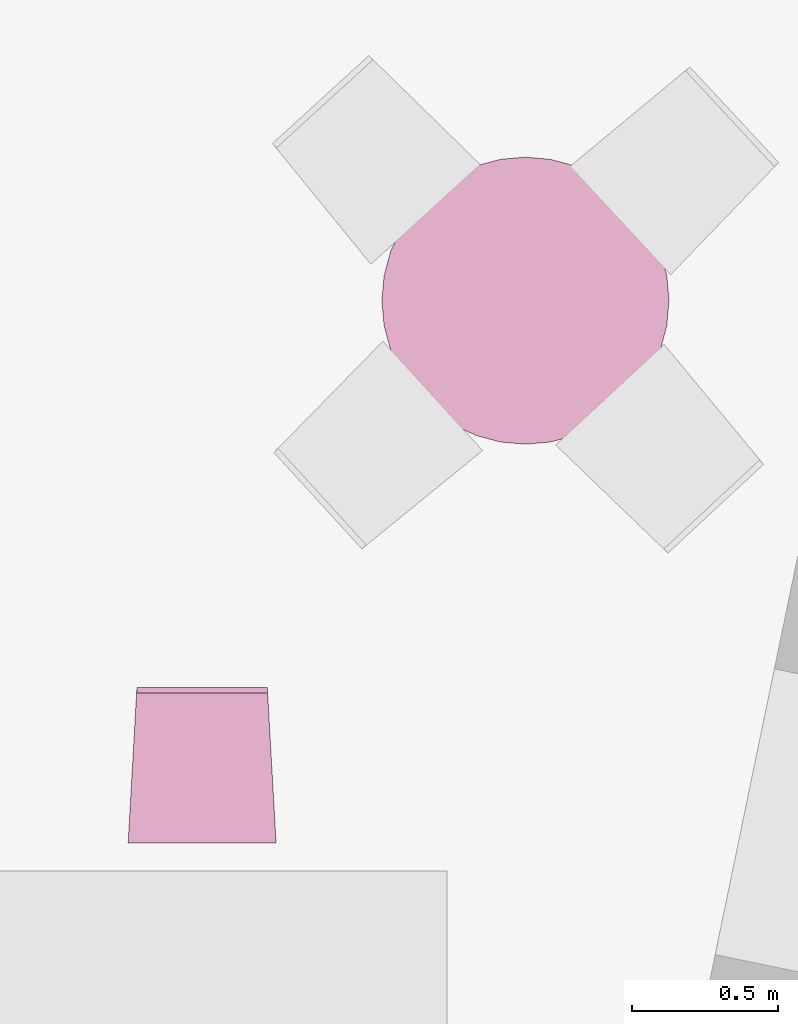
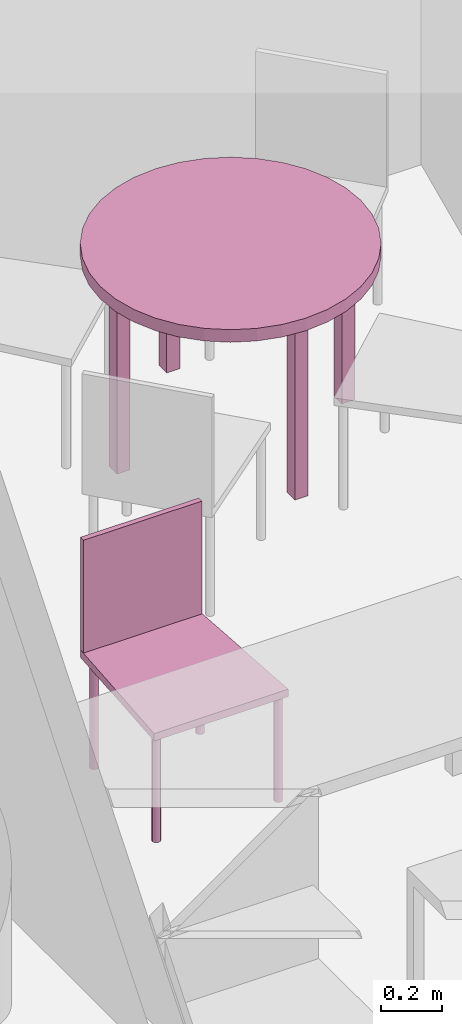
"""IFC4 building model written with IfcOpenShell, lengths in metres."""

from ifc_helpers import new_model, entity, si_unit, converted_unit, derived_unit, frame, origin, place, context, subcontext, project, spatial, faceted_brep, element, save


model = new_model("IFC4")

# Units and contexts
model_context = context("Model", 3, precision=1e-05, world=origin())
body_context = subcontext(model_context, "Body", "Model", "MODEL_VIEW")
ifc_project = project(units=[si_unit("LENGTHUNIT", "METRE"), si_unit("AREAUNIT", "SQUARE_METRE"), si_unit("VOLUMEUNIT", "CUBIC_METRE"), si_unit("MASSUNIT", "GRAM", prefix="KILO"), converted_unit("PLANEANGLEUNIT", "DEGREE", entity("IfcPlaneAngleMeasure", 0.0174532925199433), si_unit("PLANEANGLEUNIT", "RADIAN"), dimensions=[0, 0, 0, 0, 0, 0, 0]), derived_unit("THERMALTRANSMITTANCEUNIT", [(si_unit("POWERUNIT", "WATT"), 1), (si_unit("THERMODYNAMICTEMPERATUREUNIT", "KELVIN"), -1), (si_unit("LENGTHUNIT", "METRE"), -2)]), derived_unit("VOLUMETRICFLOWRATEUNIT", [(si_unit("LENGTHUNIT", "METRE"), 3), (converted_unit("TIMEUNIT", "hour", entity("IfcTimeMeasure", 3600.0), si_unit("TIMEUNIT", "SECOND"), dimensions=[0, 0, 1, 0, 0, 0, 0]), -1), (si_unit("LENGTHUNIT", "METRE"), -1)])], contexts=[model_context])

# Building, storeys
building_placement = place(None, origin())
building = spatial("IfcBuilding", under=ifc_project, at=building_placement, Name="HABITATGE PLURIFAMILIAR", CompositionType="ELEMENT")
storey_1_placement = place(building_placement, frame((0.0, 0.0, 6.25)))
storey_1 = spatial("IfcBuildingStorey", under=building, at=storey_1_placement, Name="PLANTA PRIMERA", CompositionType="ELEMENT", Elevation=6.25)
storey_2_placement = place(storey_1_placement, frame((0.0, 0.0, 3.35)))
storey_2 = spatial("IfcBuildingStorey", under=storey_1, at=storey_2_placement, Name="NOU", CompositionType="PARTIAL")

# Furniture
furniture_1_placement = place(storey_2_placement, frame((422.018335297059, 15.0153044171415, -3.35114412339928)))
element("IfcFurniture", 1, at=furniture_1_placement, inside=storey_2, Name="Cadira confient_P1", context=body_context, shape_type="Brep", body=[
    faceted_brep([(0.497227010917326, 0.0250324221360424, 0.0), (0.49701133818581, 0.0276273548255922, 0.0), (0.496348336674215, 0.0301454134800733, 0.0), (0.495258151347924, 0.0325100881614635, 0.0), (0.493773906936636, 0.0346495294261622, 0.0), (0.49194070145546, 0.0364987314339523, 0.0), (0.489814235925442, 0.0380015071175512, 0.0), (0.487459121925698, 0.0391121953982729, 0.0), (0.484946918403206, 0.0397970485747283, 0.0), (0.482353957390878, 0.0400352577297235, 0.0), (0.479759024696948, 0.0398195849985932, 0.0), (0.477240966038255, 0.0391565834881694, 0.0), (0.474876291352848, 0.0380663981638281, 0.0), (0.472736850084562, 0.0365821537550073, 0.0), (0.470887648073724, 0.0347489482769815, 0.0), (0.469384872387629, 0.0326224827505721, 0.0), (0.468274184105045, 0.0302673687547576, 0.0), (0.467589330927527, 0.0277551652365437, 0.0), (0.467351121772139, 0.0251622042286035, 0.0), (0.467566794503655, 0.0225672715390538, 0.0), (0.46822979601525, 0.0200492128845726, 0.0), (0.469319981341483, 0.0176845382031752, 0.0), (0.470804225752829, 0.0155450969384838, 0.0), (0.472637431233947, 0.0136958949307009, 0.0), (0.474763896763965, 0.012193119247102, 0.0), (0.477119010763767, 0.0110824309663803, 0.0), (0.479631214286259, 0.0103975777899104, 0.0), (0.482224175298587, 0.0101593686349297, 0.0), (0.484819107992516, 0.0103750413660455, 0.0), (0.48733716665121, 0.0110380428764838, 0.0), (0.489701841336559, 0.0121282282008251, 0.0), (0.491841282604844, 0.0136124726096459, 0.0), (0.493690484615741, 0.0154456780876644, 0.0), (0.495193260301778, 0.0175721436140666, 0.0), (0.49630394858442, 0.0199272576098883, 0.0), (0.496988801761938, 0.0224394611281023, 0.0), (0.497227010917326, 0.0250324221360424, 0.448281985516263), (0.496988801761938, 0.0224394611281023, 0.448281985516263), (0.49630394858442, 0.0199272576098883, 0.448281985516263), (0.495193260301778, 0.0175721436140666, 0.448281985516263), (0.493690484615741, 0.0154456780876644, 0.448281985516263), (0.491841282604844, 0.0136124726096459, 0.448281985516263), (0.489701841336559, 0.0121282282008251, 0.448281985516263), (0.48733716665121, 0.0110380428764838, 0.448281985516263), (0.484819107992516, 0.0103750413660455, 0.448281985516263), (0.482224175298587, 0.0101593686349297, 0.448281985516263), (0.479631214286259, 0.0103975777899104, 0.448281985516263), (0.477119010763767, 0.0110824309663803, 0.448281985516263), (0.474763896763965, 0.012193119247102, 0.448281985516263), (0.472637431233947, 0.0136958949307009, 0.448281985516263), (0.470804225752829, 0.0155450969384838, 0.448281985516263), (0.469319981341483, 0.0176845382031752, 0.448281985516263), (0.46822979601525, 0.0200492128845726, 0.448281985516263), (0.467566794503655, 0.0225672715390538, 0.448281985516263), (0.467351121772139, 0.0251622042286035, 0.448281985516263), (0.467589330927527, 0.0277551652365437, 0.448281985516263), (0.468274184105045, 0.0302673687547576, 0.448281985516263), (0.469384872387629, 0.0326224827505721, 0.448281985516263), (0.470887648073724, 0.0347489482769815, 0.448281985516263), (0.472736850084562, 0.0365821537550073, 0.448281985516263), (0.474876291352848, 0.0380663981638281, 0.448281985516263), (0.477240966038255, 0.0391565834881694, 0.448281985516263), (0.479759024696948, 0.0398195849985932, 0.448281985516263), (0.482353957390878, 0.0400352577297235, 0.448281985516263), (0.484946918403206, 0.0397970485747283, 0.448281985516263), (0.487459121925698, 0.0391121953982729, 0.448281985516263), (0.489814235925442, 0.0380015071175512, 0.448281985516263), (0.49194070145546, 0.0364987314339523, 0.448281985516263), (0.493773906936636, 0.0346495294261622, 0.448281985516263), (0.495258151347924, 0.0325100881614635, 0.448281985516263), (0.496348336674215, 0.0301454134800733, 0.448281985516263), (0.49701133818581, 0.0276273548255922, 0.448281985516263)], [[[0, 1, 2, 3, 4, 5, 6, 7, 8, 9, 10, 11, 12, 13, 14, 15, 16, 17, 18, 19, 20, 21, 22, 23, 24, 25, 26, 27, 28, 29, 30, 31, 32, 33, 34, 35]], [[36, 37, 38, 39, 40, 41, 42, 43, 44, 45, 46, 47, 48, 49, 50, 51, 52, 53, 54, 55, 56, 57, 58, 59, 60, 61, 62, 63, 64, 65, 66, 67, 68, 69, 70, 71]], [[1, 0, 36, 71]], [[2, 1, 71, 70]], [[3, 2, 70, 69]], [[4, 3, 69, 68]], [[5, 4, 68, 67]], [[6, 5, 67, 66]], [[7, 6, 66, 65]], [[8, 7, 65, 64]], [[9, 8, 64, 63]], [[10, 9, 63, 62]], [[11, 10, 62, 61]], [[12, 11, 61, 60]], [[13, 12, 60, 59]], [[14, 13, 59, 58]], [[15, 14, 58, 57]], [[16, 15, 57, 56]], [[17, 16, 56, 55]], [[18, 17, 55, 54]], [[19, 18, 54, 53]], [[20, 19, 53, 52]], [[21, 20, 52, 51]], [[22, 21, 51, 50]], [[23, 22, 50, 49]], [[24, 23, 49, 48]], [[25, 24, 48, 47]], [[26, 25, 47, 46]], [[27, 26, 46, 45]], [[28, 27, 45, 44]], [[29, 28, 44, 43]], [[30, 29, 43, 42]], [[31, 30, 42, 41]], [[32, 31, 41, 40]], [[33, 32, 40, 39]], [[34, 33, 39, 38]], [[35, 34, 38, 37]], [[0, 35, 37, 36]]], orient=[[False], [False], [False], [False], [False], [False], [False], [False], [False], [False], [False], [False], [False], [False], [False], [False], [False], [False], [False], [False], [False], [False], [False], [False], [False], [False], [False], [False], [False], [False], [False], [False], [False], [False], [False], [False], [False], [False]]),
    faceted_brep([(0.469589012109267, 0.487439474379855, 0.0), (0.469373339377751, 0.490034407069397, 0.0), (0.468710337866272, 0.492552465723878, 0.0), (0.467620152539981, 0.494917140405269, 0.0), (0.466135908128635, 0.497056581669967, 0.0), (0.464302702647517, 0.498905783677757, 0.0), (0.462176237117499, 0.500408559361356, 0.0), (0.459821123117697, 0.501519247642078, 0.0), (0.457308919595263, 0.502204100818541, 0.0), (0.454715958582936, 0.502442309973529, 0.0), (0.452121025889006, 0.502226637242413, 0.0), (0.449602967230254, 0.501563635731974, 0.0), (0.447238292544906, 0.500473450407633, 0.0), (0.44509885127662, 0.498989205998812, 0.0), (0.443249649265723, 0.497156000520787, 0.0), (0.441746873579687, 0.495029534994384, 0.0), (0.440636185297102, 0.49267442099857, 0.0), (0.439951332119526, 0.490162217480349, 0.0), (0.439713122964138, 0.487569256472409, 0.0), (0.439928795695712, 0.484974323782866, 0.0), (0.440591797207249, 0.482456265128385, 0.0), (0.441681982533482, 0.480091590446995, 0.0), (0.443166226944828, 0.477952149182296, 0.0), (0.444999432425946, 0.476102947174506, 0.0), (0.447125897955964, 0.474600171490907, 0.0), (0.449481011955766, 0.473489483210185, 0.0), (0.451993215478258, 0.47280463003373, 0.0), (0.454586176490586, 0.472566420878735, 0.0), (0.457181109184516, 0.472782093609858, 0.0), (0.45969916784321, 0.473445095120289, 0.0), (0.462063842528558, 0.47453528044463, 0.0), (0.464203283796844, 0.476019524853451, 0.0), (0.466052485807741, 0.477852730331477, 0.0), (0.467555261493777, 0.479979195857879, 0.0), (0.468665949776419, 0.482334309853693, 0.0), (0.469350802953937, 0.484846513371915, 0.0), (0.469589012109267, 0.487439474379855, 0.448281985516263), (0.469350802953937, 0.484846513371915, 0.448281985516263), (0.468665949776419, 0.482334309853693, 0.448281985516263), (0.467555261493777, 0.479979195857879, 0.448281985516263), (0.466052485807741, 0.477852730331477, 0.448281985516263), (0.464203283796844, 0.476019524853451, 0.448281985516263), (0.462063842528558, 0.47453528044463, 0.448281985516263), (0.45969916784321, 0.473445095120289, 0.448281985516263), (0.457181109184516, 0.472782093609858, 0.448281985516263), (0.454586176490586, 0.472566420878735, 0.448281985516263), (0.451993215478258, 0.47280463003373, 0.448281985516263), (0.449481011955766, 0.473489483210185, 0.448281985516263), (0.447125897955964, 0.474600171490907, 0.448281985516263), (0.444999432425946, 0.476102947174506, 0.448281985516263), (0.443166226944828, 0.477952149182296, 0.448281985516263), (0.441681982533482, 0.480091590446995, 0.448281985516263), (0.440591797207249, 0.482456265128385, 0.448281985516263), (0.439928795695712, 0.484974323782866, 0.448281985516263), (0.439713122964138, 0.487569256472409, 0.448281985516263), (0.439951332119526, 0.490162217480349, 0.448281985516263), (0.440636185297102, 0.49267442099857, 0.448281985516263), (0.441746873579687, 0.495029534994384, 0.448281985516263), (0.443249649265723, 0.497156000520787, 0.448281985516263), (0.44509885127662, 0.498989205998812, 0.448281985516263), (0.447238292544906, 0.500473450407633, 0.448281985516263), (0.449602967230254, 0.501563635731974, 0.448281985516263), (0.452121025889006, 0.502226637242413, 0.448281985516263), (0.454715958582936, 0.502442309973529, 0.448281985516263), (0.457308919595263, 0.502204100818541, 0.448281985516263), (0.459821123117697, 0.501519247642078, 0.448281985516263), (0.462176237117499, 0.500408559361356, 0.448281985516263), (0.464302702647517, 0.498905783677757, 0.448281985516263), (0.466135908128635, 0.497056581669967, 0.448281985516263), (0.467620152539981, 0.494917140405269, 0.448281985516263), (0.468710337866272, 0.492552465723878, 0.448281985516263), (0.469373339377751, 0.490034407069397, 0.448281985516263)], [[[0, 1, 2, 3, 4, 5, 6, 7, 8, 9, 10, 11, 12, 13, 14, 15, 16, 17, 18, 19, 20, 21, 22, 23, 24, 25, 26, 27, 28, 29, 30, 31, 32, 33, 34, 35]], [[36, 37, 38, 39, 40, 41, 42, 43, 44, 45, 46, 47, 48, 49, 50, 51, 52, 53, 54, 55, 56, 57, 58, 59, 60, 61, 62, 63, 64, 65, 66, 67, 68, 69, 70, 71]], [[1, 0, 36, 71]], [[2, 1, 71, 70]], [[3, 2, 70, 69]], [[4, 3, 69, 68]], [[5, 4, 68, 67]], [[6, 5, 67, 66]], [[7, 6, 66, 65]], [[8, 7, 65, 64]], [[9, 8, 64, 63]], [[10, 9, 63, 62]], [[11, 10, 62, 61]], [[12, 11, 61, 60]], [[13, 12, 60, 59]], [[14, 13, 59, 58]], [[15, 14, 58, 57]], [[16, 15, 57, 56]], [[17, 16, 56, 55]], [[18, 17, 55, 54]], [[19, 18, 54, 53]], [[20, 19, 53, 52]], [[21, 20, 52, 51]], [[22, 21, 51, 50]], [[23, 22, 50, 49]], [[24, 23, 49, 48]], [[25, 24, 48, 47]], [[26, 25, 47, 46]], [[27, 26, 46, 45]], [[28, 27, 45, 44]], [[29, 28, 44, 43]], [[30, 29, 43, 42]], [[31, 30, 42, 41]], [[32, 31, 41, 40]], [[33, 32, 40, 39]], [[34, 33, 39, 38]], [[35, 34, 38, 37]], [[0, 35, 37, 36]]], orient=[[False], [False], [False], [False], [False], [False], [False], [False], [False], [False], [False], [False], [False], [False], [False], [False], [False], [False], [False], [False], [False], [False], [False], [False], [False], [False], [False], [False], [False], [False], [False], [False], [False], [False], [False], [False], [False], [False]]),
    faceted_brep([(0.0372270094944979, 0.0250324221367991, 0.0), (0.0370113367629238, 0.0276273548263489, 0.0), (0.0363483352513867, 0.0301454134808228, 0.0), (0.0352581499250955, 0.0325100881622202, 0.0), (0.0337739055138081, 0.0346495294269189, 0.0), (0.0319407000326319, 0.0364987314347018, 0.0), (0.0298142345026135, 0.0380015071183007, 0.0), (0.0274591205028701, 0.0391121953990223, 0.0), (0.0249469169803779, 0.039797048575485, 0.0), (0.0223539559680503, 0.040035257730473, 0.0), (0.0197590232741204, 0.0398195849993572, 0.0), (0.0172409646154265, 0.0391565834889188, 0.0), (0.0148762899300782, 0.0380663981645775, 0.0), (0.0127368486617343, 0.0365821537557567, 0.0), (0.0108876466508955, 0.0347489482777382, 0.0), (0.00938487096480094, 0.0326224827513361, 0.0), (0.00827418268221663, 0.0302673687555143, 0.0), (0.00758932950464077, 0.0277551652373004, 0.0), (0.0073511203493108, 0.0251622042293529, 0.0), (0.00756679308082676, 0.0225672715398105, 0.0), (0.00822979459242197, 0.0200492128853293, 0.0), (0.00931997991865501, 0.0176845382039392, 0.0), (0.0108042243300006, 0.0155450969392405, 0.0), (0.0126374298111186, 0.0136958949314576, 0.0), (0.0147638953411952, 0.0121931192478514, 0.0), (0.0171190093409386, 0.0110824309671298, 0.0), (0.0196312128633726, 0.0103975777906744, 0.0), (0.0222241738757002, 0.0101593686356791, 0.0), (0.0248191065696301, 0.0103750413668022, 0.0), (0.0273371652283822, 0.0110380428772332, 0.0), (0.0297018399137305, 0.0121282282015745, 0.0), (0.0318412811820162, 0.0136124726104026, 0.0), (0.0336904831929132, 0.0154456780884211, 0.0), (0.0351932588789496, 0.0175721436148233, 0.0), (0.0363039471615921, 0.0199272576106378, 0.0), (0.0369888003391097, 0.022439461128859, 0.0), (0.0372270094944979, 0.0250324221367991, 0.448281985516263), (0.0369888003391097, 0.022439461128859, 0.448281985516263), (0.0363039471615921, 0.0199272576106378, 0.448281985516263), (0.0351932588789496, 0.0175721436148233, 0.448281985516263), (0.0336904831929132, 0.0154456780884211, 0.448281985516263), (0.0318412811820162, 0.0136124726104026, 0.448281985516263), (0.0297018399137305, 0.0121282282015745, 0.448281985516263), (0.0273371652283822, 0.0110380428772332, 0.448281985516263), (0.0248191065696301, 0.0103750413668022, 0.448281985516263), (0.0222241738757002, 0.0101593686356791, 0.448281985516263), (0.0196312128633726, 0.0103975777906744, 0.448281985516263), (0.0171190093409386, 0.0110824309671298, 0.448281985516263), (0.0147638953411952, 0.0121931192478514, 0.448281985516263), (0.0126374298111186, 0.0136958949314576, 0.448281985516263), (0.0108042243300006, 0.0155450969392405, 0.448281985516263), (0.00931997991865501, 0.0176845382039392, 0.448281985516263), (0.00822979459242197, 0.0200492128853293, 0.448281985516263), (0.00756679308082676, 0.0225672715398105, 0.448281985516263), (0.0073511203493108, 0.0251622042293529, 0.448281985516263), (0.00758932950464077, 0.0277551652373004, 0.448281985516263), (0.00827418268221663, 0.0302673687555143, 0.448281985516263), (0.00938487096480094, 0.0326224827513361, 0.448281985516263), (0.0108876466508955, 0.0347489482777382, 0.448281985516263), (0.0127368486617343, 0.0365821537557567, 0.448281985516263), (0.0148762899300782, 0.0380663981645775, 0.448281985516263), (0.0172409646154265, 0.0391565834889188, 0.448281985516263), (0.0197590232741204, 0.0398195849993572, 0.448281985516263), (0.0223539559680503, 0.040035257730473, 0.448281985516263), (0.0249469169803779, 0.039797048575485, 0.448281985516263), (0.0274591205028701, 0.0391121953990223, 0.448281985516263), (0.0298142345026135, 0.0380015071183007, 0.448281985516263), (0.0319407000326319, 0.0364987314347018, 0.448281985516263), (0.0337739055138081, 0.0346495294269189, 0.448281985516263), (0.0352581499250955, 0.0325100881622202, 0.448281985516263), (0.0363483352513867, 0.0301454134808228, 0.448281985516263), (0.0370113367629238, 0.0276273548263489, 0.448281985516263)], [[[0, 1, 2, 3, 4, 5, 6, 7, 8, 9, 10, 11, 12, 13, 14, 15, 16, 17, 18, 19, 20, 21, 22, 23, 24, 25, 26, 27, 28, 29, 30, 31, 32, 33, 34, 35]], [[36, 37, 38, 39, 40, 41, 42, 43, 44, 45, 46, 47, 48, 49, 50, 51, 52, 53, 54, 55, 56, 57, 58, 59, 60, 61, 62, 63, 64, 65, 66, 67, 68, 69, 70, 71]], [[1, 0, 36, 71]], [[2, 1, 71, 70]], [[3, 2, 70, 69]], [[4, 3, 69, 68]], [[5, 4, 68, 67]], [[6, 5, 67, 66]], [[7, 6, 66, 65]], [[8, 7, 65, 64]], [[9, 8, 64, 63]], [[10, 9, 63, 62]], [[11, 10, 62, 61]], [[12, 11, 61, 60]], [[13, 12, 60, 59]], [[14, 13, 59, 58]], [[15, 14, 58, 57]], [[16, 15, 57, 56]], [[17, 16, 56, 55]], [[18, 17, 55, 54]], [[19, 18, 54, 53]], [[20, 19, 53, 52]], [[21, 20, 52, 51]], [[22, 21, 51, 50]], [[23, 22, 50, 49]], [[24, 23, 49, 48]], [[25, 24, 48, 47]], [[26, 25, 47, 46]], [[27, 26, 46, 45]], [[28, 27, 45, 44]], [[29, 28, 44, 43]], [[30, 29, 43, 42]], [[31, 30, 42, 41]], [[32, 31, 41, 40]], [[33, 32, 40, 39]], [[34, 33, 39, 38]], [[35, 34, 38, 37]], [[0, 35, 37, 36]]], orient=[[False], [False], [False], [False], [False], [False], [False], [False], [False], [False], [False], [False], [False], [False], [False], [False], [False], [False], [False], [False], [False], [False], [False], [False], [False], [False], [False], [False], [False], [False], [False], [False], [False], [False], [False], [False], [False], [False]]),
    faceted_brep([(0.0695890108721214, 0.487439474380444, 0.0), (0.0693733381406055, 0.490034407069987, 0.0), (0.0687103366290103, 0.492552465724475, 0.0), (0.0676201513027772, 0.494917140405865, 0.0), (0.0661359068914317, 0.497056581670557, 0.0), (0.0643027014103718, 0.498905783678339, 0.0), (0.0621762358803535, 0.500408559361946, 0.0), (0.0598211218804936, 0.501519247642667, 0.0), (0.0573089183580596, 0.50220410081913, 0.0), (0.054715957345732, 0.502442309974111, 0.0), (0.0521210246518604, 0.502226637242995, 0.0), (0.04960296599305, 0.501563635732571, 0.0), (0.0472382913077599, 0.50047345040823, 0.0), (0.0450988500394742, 0.498989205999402, 0.0), (0.043249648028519, 0.497156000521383, 0.0), (0.0417468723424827, 0.495029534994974, 0.0), (0.0406361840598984, 0.492674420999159, 0.0), (0.0399513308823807, 0.490162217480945, 0.0), (0.0397131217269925, 0.487569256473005, 0.0), (0.0399287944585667, 0.484974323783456, 0.0), (0.0405917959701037, 0.482456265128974, 0.0), (0.0416819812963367, 0.480091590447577, 0.0), (0.0431662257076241, 0.477952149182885, 0.0), (0.0449994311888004, 0.476102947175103, 0.0), (0.0471258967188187, 0.474600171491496, 0.0), (0.0494810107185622, 0.473489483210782, 0.0), (0.0519932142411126, 0.472804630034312, 0.0), (0.054586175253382, 0.472566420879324, 0.0), (0.0571811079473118, 0.472782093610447, 0.0), (0.0596991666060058, 0.473445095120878, 0.0), (0.0620638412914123, 0.474535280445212, 0.0), (0.064203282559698, 0.47601952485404, 0.0), (0.0660524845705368, 0.477852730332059, 0.0), (0.0675552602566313, 0.479979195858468, 0.0), (0.0686659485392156, 0.48233430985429, 0.0), (0.0693508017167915, 0.484846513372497, 0.0), (0.0695890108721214, 0.487439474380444, 0.448281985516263), (0.0693508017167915, 0.484846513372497, 0.448281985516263), (0.0686659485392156, 0.48233430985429, 0.448281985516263), (0.0675552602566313, 0.479979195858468, 0.448281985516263), (0.0660524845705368, 0.477852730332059, 0.448281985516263), (0.064203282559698, 0.47601952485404, 0.448281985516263), (0.0620638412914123, 0.474535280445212, 0.448281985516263), (0.0596991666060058, 0.473445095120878, 0.448281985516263), (0.0571811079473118, 0.472782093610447, 0.448281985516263), (0.054586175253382, 0.472566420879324, 0.448281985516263), (0.0519932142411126, 0.472804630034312, 0.448281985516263), (0.0494810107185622, 0.473489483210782, 0.448281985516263), (0.0471258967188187, 0.474600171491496, 0.448281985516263), (0.0449994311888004, 0.476102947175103, 0.448281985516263), (0.0431662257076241, 0.477952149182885, 0.448281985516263), (0.0416819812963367, 0.480091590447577, 0.448281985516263), (0.0405917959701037, 0.482456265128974, 0.448281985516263), (0.0399287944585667, 0.484974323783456, 0.448281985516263), (0.0397131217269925, 0.487569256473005, 0.448281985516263), (0.0399513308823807, 0.490162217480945, 0.448281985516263), (0.0406361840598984, 0.492674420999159, 0.448281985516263), (0.0417468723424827, 0.495029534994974, 0.448281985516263), (0.043249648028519, 0.497156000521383, 0.448281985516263), (0.0450988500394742, 0.498989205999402, 0.448281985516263), (0.0472382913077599, 0.50047345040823, 0.448281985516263), (0.04960296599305, 0.501563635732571, 0.448281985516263), (0.0521210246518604, 0.502226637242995, 0.448281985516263), (0.054715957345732, 0.502442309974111, 0.448281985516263), (0.0573089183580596, 0.50220410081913, 0.448281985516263), (0.0598211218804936, 0.501519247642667, 0.448281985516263), (0.0621762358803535, 0.500408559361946, 0.448281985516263), (0.0643027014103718, 0.498905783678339, 0.448281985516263), (0.0661359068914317, 0.497056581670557, 0.448281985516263), (0.0676201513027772, 0.494917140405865, 0.448281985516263), (0.0687103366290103, 0.492552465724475, 0.448281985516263), (0.0693733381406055, 0.490034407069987, 0.448281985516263)], [[[0, 1, 2, 3, 4, 5, 6, 7, 8, 9, 10, 11, 12, 13, 14, 15, 16, 17, 18, 19, 20, 21, 22, 23, 24, 25, 26, 27, 28, 29, 30, 31, 32, 33, 34, 35]], [[36, 37, 38, 39, 40, 41, 42, 43, 44, 45, 46, 47, 48, 49, 50, 51, 52, 53, 54, 55, 56, 57, 58, 59, 60, 61, 62, 63, 64, 65, 66, 67, 68, 69, 70, 71]], [[1, 0, 36, 71]], [[2, 1, 71, 70]], [[3, 2, 70, 69]], [[4, 3, 69, 68]], [[5, 4, 68, 67]], [[6, 5, 67, 66]], [[7, 6, 66, 65]], [[8, 7, 65, 64]], [[9, 8, 64, 63]], [[10, 9, 63, 62]], [[11, 10, 62, 61]], [[12, 11, 61, 60]], [[13, 12, 60, 59]], [[14, 13, 59, 58]], [[15, 14, 58, 57]], [[16, 15, 57, 56]], [[17, 16, 56, 55]], [[18, 17, 55, 54]], [[19, 18, 54, 53]], [[20, 19, 53, 52]], [[21, 20, 52, 51]], [[22, 21, 51, 50]], [[23, 22, 50, 49]], [[24, 23, 49, 48]], [[25, 24, 48, 47]], [[26, 25, 47, 46]], [[27, 26, 46, 45]], [[28, 27, 45, 44]], [[29, 28, 44, 43]], [[30, 29, 43, 42]], [[31, 30, 42, 41]], [[32, 31, 41, 40]], [[33, 32, 40, 39]], [[34, 33, 39, 38]], [[35, 34, 38, 37]], [[0, 35, 37, 36]]], orient=[[False], [False], [False], [False], [False], [False], [False], [False], [False], [False], [False], [False], [False], [False], [False], [False], [False], [False], [False], [False], [False], [False], [False], [False], [False], [False], [False], [False], [False], [False], [False], [False], [False], [False], [False], [False], [False], [False]]),
    faceted_brep([(0.0300000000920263, 0.532607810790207, 0.418281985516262), (0.0, 0.0, 0.418281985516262), (0.506514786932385, 0.0, 0.418281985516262), (0.476514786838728, 0.532607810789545, 0.418281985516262), (0.0, 0.0, 0.448281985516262), (0.0300000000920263, 0.532607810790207, 0.448281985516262), (0.476514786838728, 0.532607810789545, 0.448281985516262), (0.506514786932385, 0.0, 0.448281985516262)], [[[0, 1, 2, 3]], [[4, 5, 6, 7]], [[1, 0, 5, 4]], [[2, 1, 4, 7]], [[3, 2, 7, 6]], [[0, 3, 6, 5]]], orient=[[False], [False], [False], [False], [False], [False]]),
    faceted_brep([(0.0300000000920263, 0.512607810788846, 0.448281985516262), (0.476514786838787, 0.512607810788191, 0.448281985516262), (0.476514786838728, 0.532607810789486, 0.448281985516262), (0.0300000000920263, 0.532607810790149, 0.448281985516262), (0.476514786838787, 0.512607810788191, 0.898281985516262), (0.0300000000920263, 0.512607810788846, 0.898281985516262), (0.0300000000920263, 0.532607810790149, 0.898281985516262), (0.476514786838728, 0.532607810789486, 0.898281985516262)], [[[0, 1, 2, 3]], [[4, 5, 6, 7]], [[1, 0, 5, 4]], [[2, 1, 4, 7]], [[3, 2, 7, 6]], [[0, 3, 6, 5]]], orient=[[False], [False], [False], [False], [False], [False]]),
])
furniture_2_placement = place(storey_2_placement, frame((422.887367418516, 16.3805478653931, -3.3)))
element("IfcFurniture", 2, at=furniture_2_placement, inside=storey_2, Name="Taula D100_P1", context=body_context, shape_type="Brep", body=[
    faceted_brep([(0.983247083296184, 0.491623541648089, 0.7), (0.97577821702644, 0.576993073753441, 0.7), (0.953598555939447, 0.659768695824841, 0.7), (0.917382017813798, 0.737435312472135, 0.7), (0.868229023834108, 0.807633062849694, 0.7), (0.807633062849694, 0.868229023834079, 0.7), (0.737435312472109, 0.917382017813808, 0.7), (0.659768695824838, 0.953598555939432, 0.7), (0.576993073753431, 0.975778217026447, 0.7), (0.491623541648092, 0.983247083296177, 0.7), (0.406254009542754, 0.975778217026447, 0.7), (0.323478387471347, 0.953598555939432, 0.7), (0.245811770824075, 0.917382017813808, 0.7), (0.17561402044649, 0.868229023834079, 0.7), (0.115018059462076, 0.807633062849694, 0.7), (0.0658650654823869, 0.737435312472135, 0.7), (0.0296485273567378, 0.659768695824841, 0.7), (0.00746886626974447, 0.576993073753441, 0.7), (0.0, 0.491623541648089, 0.7), (0.00746886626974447, 0.406254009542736, 0.7), (0.0296485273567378, 0.323478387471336, 0.7), (0.0658650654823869, 0.245811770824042, 0.7), (0.115018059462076, 0.175614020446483, 0.7), (0.17561402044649, 0.115018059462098, 0.7), (0.245811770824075, 0.0658650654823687, 0.7), (0.323478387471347, 0.029648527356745, 0.7), (0.406254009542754, 0.00746886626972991, 0.7), (0.491623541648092, 0.0, 0.7), (0.576993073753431, 0.00746886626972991, 0.7), (0.659768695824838, 0.029648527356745, 0.7), (0.737435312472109, 0.0658650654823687, 0.7), (0.807633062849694, 0.115018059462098, 0.7), (0.868229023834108, 0.175614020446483, 0.7), (0.917382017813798, 0.245811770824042, 0.7), (0.953598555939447, 0.323478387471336, 0.7), (0.97577821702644, 0.406254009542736, 0.7), (0.983247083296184, 0.491623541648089, 0.75), (0.97577821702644, 0.406254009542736, 0.75), (0.953598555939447, 0.323478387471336, 0.75), (0.917382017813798, 0.245811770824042, 0.75), (0.868229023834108, 0.175614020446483, 0.75), (0.807633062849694, 0.115018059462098, 0.75), (0.737435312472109, 0.0658650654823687, 0.75), (0.659768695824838, 0.029648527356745, 0.75), (0.576993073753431, 0.00746886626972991, 0.75), (0.491623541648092, 0.0, 0.75), (0.406254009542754, 0.00746886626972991, 0.75), (0.323478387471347, 0.029648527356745, 0.75), (0.245811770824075, 0.0658650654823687, 0.75), (0.17561402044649, 0.115018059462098, 0.75), (0.115018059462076, 0.175614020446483, 0.75), (0.0658650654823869, 0.245811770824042, 0.75), (0.0296485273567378, 0.323478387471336, 0.75), (0.00746886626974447, 0.406254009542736, 0.75), (0.0, 0.491623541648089, 0.75), (0.00746886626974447, 0.576993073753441, 0.75), (0.0296485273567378, 0.659768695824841, 0.75), (0.0658650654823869, 0.737435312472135, 0.75), (0.115018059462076, 0.807633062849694, 0.75), (0.17561402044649, 0.868229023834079, 0.75), (0.245811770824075, 0.917382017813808, 0.75), (0.323478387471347, 0.953598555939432, 0.75), (0.406254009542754, 0.975778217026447, 0.75), (0.491623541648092, 0.983247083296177, 0.75), (0.576993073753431, 0.975778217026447, 0.75), (0.659768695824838, 0.953598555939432, 0.75), (0.737435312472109, 0.917382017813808, 0.75), (0.807633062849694, 0.868229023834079, 0.75), (0.868229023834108, 0.807633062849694, 0.75), (0.917382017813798, 0.737435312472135, 0.75), (0.953598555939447, 0.659768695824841, 0.75), (0.97577821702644, 0.576993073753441, 0.75)], [[[0, 1, 2, 3, 4, 5, 6, 7, 8, 9, 10, 11, 12, 13, 14, 15, 16, 17, 18, 19, 20, 21, 22, 23, 24, 25, 26, 27, 28, 29, 30, 31, 32, 33, 34, 35]], [[36, 37, 38, 39, 40, 41, 42, 43, 44, 45, 46, 47, 48, 49, 50, 51, 52, 53, 54, 55, 56, 57, 58, 59, 60, 61, 62, 63, 64, 65, 66, 67, 68, 69, 70, 71]], [[1, 0, 36, 71]], [[2, 1, 71, 70]], [[3, 2, 70, 69]], [[4, 3, 69, 68]], [[5, 4, 68, 67]], [[6, 5, 67, 66]], [[7, 6, 66, 65]], [[8, 7, 65, 64]], [[9, 8, 64, 63]], [[10, 9, 63, 62]], [[11, 10, 62, 61]], [[12, 11, 61, 60]], [[13, 12, 60, 59]], [[14, 13, 59, 58]], [[15, 14, 58, 57]], [[16, 15, 57, 56]], [[17, 16, 56, 55]], [[18, 17, 55, 54]], [[19, 18, 54, 53]], [[20, 19, 53, 52]], [[21, 20, 52, 51]], [[22, 21, 51, 50]], [[23, 22, 50, 49]], [[24, 23, 49, 48]], [[25, 24, 48, 47]], [[26, 25, 47, 46]], [[27, 26, 46, 45]], [[28, 27, 45, 44]], [[29, 28, 44, 43]], [[30, 29, 43, 42]], [[31, 30, 42, 41]], [[32, 31, 41, 40]], [[33, 32, 40, 39]], [[34, 33, 39, 38]], [[35, 34, 38, 37]], [[0, 35, 37, 36]]], orient=[[False], [False], [False], [False], [False], [False], [False], [False], [False], [False], [False], [False], [False], [False], [False], [False], [False], [False], [False], [False], [False], [False], [False], [False], [False], [False], [False], [False], [False], [False], [False], [False], [False], [False], [False], [False], [False], [False]]),
    faceted_brep([(0.477496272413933, 0.934826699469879, 0.0), (0.477496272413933, 0.884826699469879, 0.0), (0.527496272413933, 0.884826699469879, 0.0), (0.527496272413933, 0.934826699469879, 0.0), (0.477496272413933, 0.884826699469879, 0.7), (0.477496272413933, 0.934826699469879, 0.7), (0.527496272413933, 0.934826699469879, 0.7), (0.527496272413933, 0.884826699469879, 0.7)], [[[0, 1, 2, 3]], [[4, 5, 6, 7]], [[1, 0, 5, 4]], [[2, 1, 4, 7]], [[3, 2, 7, 6]], [[0, 3, 6, 5]]], orient=[[False], [False], [False], [False], [False], [False]]),
    faceted_brep([(0.0479623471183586, 0.516623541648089, 0.0), (0.0479623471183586, 0.466623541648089, 0.0), (0.0979623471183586, 0.466623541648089, 0.0), (0.0979623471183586, 0.516623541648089, 0.0), (0.0479623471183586, 0.466623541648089, 0.7), (0.0479623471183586, 0.516623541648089, 0.7), (0.0979623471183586, 0.516623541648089, 0.7), (0.0979623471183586, 0.466623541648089, 0.7)], [[[0, 1, 2, 3]], [[4, 5, 6, 7]], [[1, 0, 5, 4]], [[2, 1, 4, 7]], [[3, 2, 7, 6]], [[0, 3, 6, 5]]], orient=[[False], [False], [False], [False], [False], [False]]),
    faceted_brep([(0.884926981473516, 0.496029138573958, 0.0), (0.884926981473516, 0.446029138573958, 0.0), (0.934926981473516, 0.446029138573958, 0.0), (0.934926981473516, 0.496029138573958, 0.0), (0.884926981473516, 0.446029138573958, 0.7), (0.884926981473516, 0.496029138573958, 0.7), (0.934926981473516, 0.496029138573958, 0.7), (0.934926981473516, 0.446029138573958, 0.7)], [[[0, 1, 2, 3]], [[4, 5, 6, 7]], [[1, 0, 5, 4]], [[2, 1, 4, 7]], [[3, 2, 7, 6]], [[0, 3, 6, 5]]], orient=[[False], [False], [False], [False], [False], [False]]),
    faceted_brep([(0.477496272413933, 0.0980619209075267, 0.0), (0.477496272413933, 0.0480619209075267, 0.0), (0.527496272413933, 0.0480619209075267, 0.0), (0.527496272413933, 0.0980619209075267, 0.0), (0.477496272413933, 0.0480619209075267, 0.7), (0.477496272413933, 0.0980619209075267, 0.7), (0.527496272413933, 0.0980619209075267, 0.7), (0.527496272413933, 0.0480619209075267, 0.7)], [[[0, 1, 2, 3]], [[4, 5, 6, 7]], [[1, 0, 5, 4]], [[2, 1, 4, 7]], [[3, 2, 7, 6]], [[0, 3, 6, 5]]], orient=[[False], [False], [False], [False], [False], [False]]),
])

save(model, "model.ifc")
